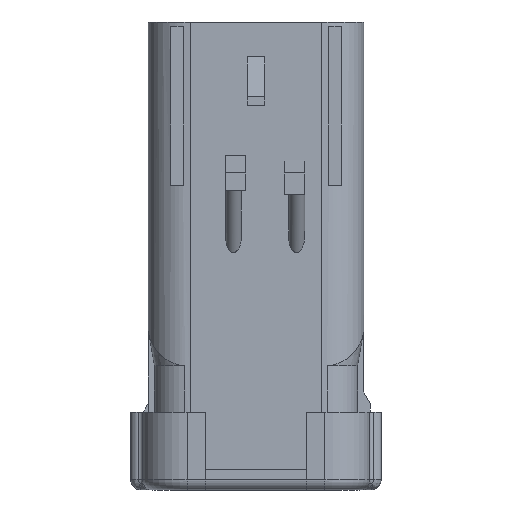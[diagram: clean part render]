
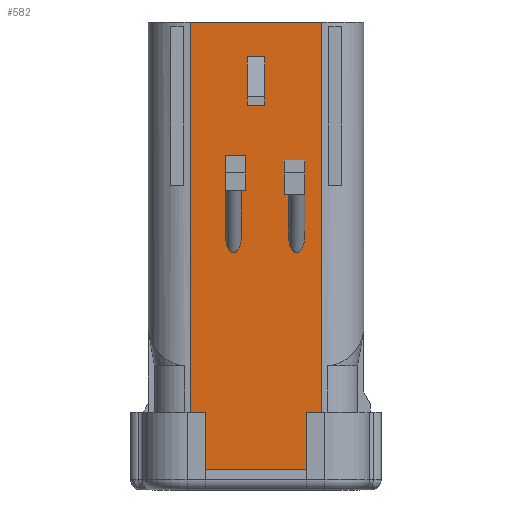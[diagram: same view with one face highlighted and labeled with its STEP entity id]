
A CAD part, front view. The second image highlights one B-rep face of the part: STEP entity #582.
In plain terms, the highlighted planar face has unit normal (0, -1, 0).
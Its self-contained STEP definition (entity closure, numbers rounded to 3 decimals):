
#481=ELLIPSE('',#5475,1.736,0.9);
#483=ELLIPSE('',#5483,1.814,0.9);
#582=ADVANCED_FACE('',(#1014,#1015,#1016,#1017),#857,.T.);
#857=PLANE('',#5603);
#1014=FACE_BOUND('',#1130,.T.);
#1015=FACE_BOUND('',#1131,.T.);
#1016=FACE_BOUND('',#1132,.T.);
#1017=FACE_BOUND('',#1133,.T.);
#1130=EDGE_LOOP('',(#2027,#2028,#2029,#2030,#2031,#2032,#2033,#2034));
#1131=EDGE_LOOP('',(#2035,#2036,#2037,#2038));
#1132=EDGE_LOOP('',(#2039,#2040,#2041,#2042,#2043,#2044));
#1133=EDGE_LOOP('',(#2045,#2046,#2047,#2048,#2049,#2050));
#2027=ORIENTED_EDGE('',*,*,#3906,.F.);
#2028=ORIENTED_EDGE('',*,*,#3907,.F.);
#2029=ORIENTED_EDGE('',*,*,#3603,.T.);
#2030=ORIENTED_EDGE('',*,*,#3844,.F.);
#2031=ORIENTED_EDGE('',*,*,#3586,.F.);
#2032=ORIENTED_EDGE('',*,*,#3908,.F.);
#2033=ORIENTED_EDGE('',*,*,#3909,.F.);
#2034=ORIENTED_EDGE('',*,*,#3910,.F.);
#2035=ORIENTED_EDGE('',*,*,#3744,.T.);
#2036=ORIENTED_EDGE('',*,*,#3743,.F.);
#2037=ORIENTED_EDGE('',*,*,#3741,.F.);
#2038=ORIENTED_EDGE('',*,*,#3739,.T.);
#2039=ORIENTED_EDGE('',*,*,#3645,.F.);
#2040=ORIENTED_EDGE('',*,*,#3643,.T.);
#2041=ORIENTED_EDGE('',*,*,#3640,.F.);
#2042=ORIENTED_EDGE('',*,*,#3638,.F.);
#2043=ORIENTED_EDGE('',*,*,#3635,.F.);
#2044=ORIENTED_EDGE('',*,*,#3631,.F.);
#2045=ORIENTED_EDGE('',*,*,#3627,.T.);
#2046=ORIENTED_EDGE('',*,*,#3624,.T.);
#2047=ORIENTED_EDGE('',*,*,#3621,.T.);
#2048=ORIENTED_EDGE('',*,*,#3617,.T.);
#2049=ORIENTED_EDGE('',*,*,#3615,.T.);
#2050=ORIENTED_EDGE('',*,*,#3613,.T.);
#3088=VERTEX_POINT('',#7451);
#3090=VERTEX_POINT('',#7454);
#3100=VERTEX_POINT('',#7480);
#3106=VERTEX_POINT('',#7497);
#3111=VERTEX_POINT('',#7509);
#3116=VERTEX_POINT('',#7518);
#3117=VERTEX_POINT('',#7522);
#3118=VERTEX_POINT('',#7526);
#3119=VERTEX_POINT('',#7530);
#3123=VERTEX_POINT('',#7539);
#3126=VERTEX_POINT('',#7550);
#3128=VERTEX_POINT('',#7554);
#3129=VERTEX_POINT('',#7558);
#3132=VERTEX_POINT('',#7566);
#3134=VERTEX_POINT('',#7572);
#3136=VERTEX_POINT('',#7577);
#3223=VERTEX_POINT('',#7798);
#3224=VERTEX_POINT('',#7800);
#3225=VERTEX_POINT('',#7804);
#3226=VERTEX_POINT('',#7808);
#3329=VERTEX_POINT('',#8172);
#3330=VERTEX_POINT('',#8173);
#3331=VERTEX_POINT('',#8176);
#3332=VERTEX_POINT('',#8178);
#3586=EDGE_CURVE('',#3088,#3090,#4328,.T.);
#3603=EDGE_CURVE('',#3100,#3106,#4336,.T.);
#3613=EDGE_CURVE('',#3111,#3116,#4343,.T.);
#3615=EDGE_CURVE('',#3117,#3111,#4345,.T.);
#3617=EDGE_CURVE('',#3118,#3117,#481,.T.);
#3621=EDGE_CURVE('',#3119,#3118,#4350,.T.);
#3624=EDGE_CURVE('',#3123,#3119,#4353,.T.);
#3627=EDGE_CURVE('',#3116,#3123,#4356,.T.);
#3631=EDGE_CURVE('',#3128,#3126,#4360,.T.);
#3635=EDGE_CURVE('',#3126,#3129,#4364,.T.);
#3638=EDGE_CURVE('',#3129,#3132,#483,.T.);
#3640=EDGE_CURVE('',#3132,#3134,#4367,.T.);
#3643=EDGE_CURVE('',#3136,#3134,#4370,.T.);
#3645=EDGE_CURVE('',#3136,#3128,#4372,.T.);
#3739=EDGE_CURVE('',#3223,#3224,#4451,.T.);
#3741=EDGE_CURVE('',#3223,#3225,#4453,.T.);
#3743=EDGE_CURVE('',#3225,#3226,#4455,.T.);
#3744=EDGE_CURVE('',#3224,#3226,#4456,.T.);
#3844=EDGE_CURVE('',#3090,#3106,#4523,.T.);
#3906=EDGE_CURVE('',#3329,#3330,#4577,.T.);
#3907=EDGE_CURVE('',#3100,#3329,#4578,.T.);
#3908=EDGE_CURVE('',#3331,#3088,#4579,.T.);
#3909=EDGE_CURVE('',#3332,#3331,#4580,.T.);
#3910=EDGE_CURVE('',#3330,#3332,#4581,.T.);
#4328=LINE('',#7453,#4899);
#4336=LINE('',#7498,#4907);
#4343=LINE('',#7519,#4914);
#4345=LINE('',#7523,#4916);
#4350=LINE('',#7535,#4921);
#4353=LINE('',#7541,#4924);
#4356=LINE('',#7546,#4927);
#4360=LINE('',#7555,#4931);
#4364=LINE('',#7563,#4935);
#4367=LINE('',#7573,#4938);
#4370=LINE('',#7579,#4941);
#4372=LINE('',#7582,#4943);
#4451=LINE('',#7801,#5022);
#4453=LINE('',#7805,#5024);
#4455=LINE('',#7809,#5026);
#4456=LINE('',#7811,#5027);
#4523=LINE('',#8050,#5094);
#4577=LINE('',#8171,#5148);
#4578=LINE('',#8174,#5149);
#4579=LINE('',#8175,#5150);
#4580=LINE('',#8177,#5151);
#4581=LINE('',#8179,#5152);
#4899=VECTOR('',#5969,1.);
#4907=VECTOR('',#5993,1.);
#4914=VECTOR('',#6008,1.);
#4916=VECTOR('',#6012,1.);
#4921=VECTOR('',#6023,1.);
#4924=VECTOR('',#6028,1.);
#4927=VECTOR('',#6033,1.);
#4931=VECTOR('',#6039,1.);
#4935=VECTOR('',#6045,1.);
#4938=VECTOR('',#6056,1.);
#4941=VECTOR('',#6061,1.);
#4943=VECTOR('',#6065,1.);
#5022=VECTOR('',#6188,1.);
#5024=VECTOR('',#6192,1.);
#5026=VECTOR('',#6196,1.);
#5027=VECTOR('',#6199,1.);
#5094=VECTOR('',#6380,1.);
#5148=VECTOR('',#6502,1.);
#5149=VECTOR('',#6503,1.);
#5150=VECTOR('',#6504,1.);
#5151=VECTOR('',#6505,1.);
#5152=VECTOR('',#6506,1.);
#5475=AXIS2_PLACEMENT_3D('',#7527,#6016,#6017);
#5483=AXIS2_PLACEMENT_3D('',#7569,#6051,#6052);
#5603=AXIS2_PLACEMENT_3D('',#8180,#6507,#6508);
#5969=DIRECTION('',(0.,0.,1.));
#5993=DIRECTION('',(0.,0.,1.));
#6008=DIRECTION('',(-1.,0.,0.));
#6012=DIRECTION('',(0.,0.,1.));
#6016=DIRECTION('',(0.,1.,0.));
#6017=DIRECTION('',(0.,0.,-1.));
#6023=DIRECTION('',(0.,0.,-1.));
#6028=DIRECTION('',(1.,0.,0.));
#6033=DIRECTION('',(0.,0.,1.));
#6039=DIRECTION('',(-1.,0.,0.));
#6045=DIRECTION('',(0.,0.,-1.));
#6051=DIRECTION('',(0.,-1.,0.));
#6052=DIRECTION('',(0.,0.,1.));
#6056=DIRECTION('',(0.,0.,1.));
#6061=DIRECTION('',(-1.,0.,0.));
#6065=DIRECTION('',(0.,0.,1.));
#6188=DIRECTION('',(0.,0.,1.));
#6192=DIRECTION('',(1.,0.,0.));
#6196=DIRECTION('',(0.,0.,1.));
#6199=DIRECTION('',(1.,0.,0.));
#6380=DIRECTION('',(1.,0.,0.));
#6502=DIRECTION('',(0.,0.,-1.));
#6503=DIRECTION('',(-1.,0.,0.));
#6504=DIRECTION('',(-1.,0.,0.));
#6505=DIRECTION('',(0.,0.,1.));
#6506=DIRECTION('',(-1.,0.,0.));
#6507=DIRECTION('',(0.,-1.,0.));
#6508=DIRECTION('',(0.,0.,1.));
#7451=CARTESIAN_POINT('',(-7.45,-8.1,-44.2));
#7453=CARTESIAN_POINT('',(-7.45,-8.1,-50.2));
#7454=CARTESIAN_POINT('',(-7.45,-8.1,0.));
#7480=CARTESIAN_POINT('',(7.45,-8.1,-44.2));
#7497=CARTESIAN_POINT('',(7.45,-8.1,0.));
#7498=CARTESIAN_POINT('',(7.45,-8.1,-50.2));
#7509=CARTESIAN_POINT('',(3.7,-8.1,-19.5));
#7518=CARTESIAN_POINT('',(3.2,-8.1,-19.5));
#7519=CARTESIAN_POINT('',(3.57,-8.1,-19.5));
#7522=CARTESIAN_POINT('',(3.7,-8.1,-24.364));
#7523=CARTESIAN_POINT('',(3.7,-8.1,-23.906));
#7526=CARTESIAN_POINT('',(5.5,-8.1,-24.364));
#7527=CARTESIAN_POINT('',(4.6,-8.1,-24.364));
#7530=CARTESIAN_POINT('',(5.5,-8.1,-15.644));
#7535=CARTESIAN_POINT('',(5.5,-8.1,-24.283));
#7539=CARTESIAN_POINT('',(3.2,-8.1,-15.644));
#7541=CARTESIAN_POINT('',(3.545,-8.1,-15.644));
#7546=CARTESIAN_POINT('',(3.2,-8.1,-19.264));
#7550=CARTESIAN_POINT('',(-3.45,-8.1,-15.098));
#7554=CARTESIAN_POINT('',(-1.15,-8.1,-15.098));
#7555=CARTESIAN_POINT('',(8.94,-8.1,-15.098));
#7558=CARTESIAN_POINT('',(-3.45,-8.1,-24.286));
#7563=CARTESIAN_POINT('',(-3.45,-8.1,-55.17));
#7566=CARTESIAN_POINT('',(-1.65,-8.1,-24.286));
#7569=CARTESIAN_POINT('',(-2.55,-8.1,-24.286));
#7572=CARTESIAN_POINT('',(-1.65,-8.1,-19.1));
#7573=CARTESIAN_POINT('',(-1.65,-8.1,-55.17));
#7577=CARTESIAN_POINT('',(-1.15,-8.1,-19.1));
#7579=CARTESIAN_POINT('',(8.94,-8.1,-19.1));
#7582=CARTESIAN_POINT('',(-1.15,-8.1,-55.17));
#7798=CARTESIAN_POINT('',(-1.,-8.1,-9.45));
#7800=CARTESIAN_POINT('',(-1.,-8.1,-3.95));
#7801=CARTESIAN_POINT('',(-1.,-8.1,-9.45));
#7804=CARTESIAN_POINT('',(1.,-8.1,-9.45));
#7805=CARTESIAN_POINT('',(-1.,-8.1,-9.45));
#7808=CARTESIAN_POINT('',(1.,-8.1,-3.95));
#7809=CARTESIAN_POINT('',(1.,-8.1,-9.45));
#7811=CARTESIAN_POINT('',(-1.,-8.1,-3.95));
#8050=CARTESIAN_POINT('',(-14.04,-8.1,0.));
#8171=CARTESIAN_POINT('',(5.75,-8.1,-55.17));
#8172=CARTESIAN_POINT('',(5.75,-8.1,-44.2));
#8173=CARTESIAN_POINT('',(5.75,-8.1,-50.7));
#8174=CARTESIAN_POINT('',(8.94,-8.1,-44.2));
#8175=CARTESIAN_POINT('',(8.94,-8.1,-44.2));
#8176=CARTESIAN_POINT('',(-5.75,-8.1,-44.2));
#8177=CARTESIAN_POINT('',(-5.75,-8.1,-55.17));
#8178=CARTESIAN_POINT('',(-5.75,-8.1,-50.7));
#8179=CARTESIAN_POINT('',(14.94,-8.1,-50.7));
#8180=CARTESIAN_POINT('',(8.94,-8.1,-55.17));
